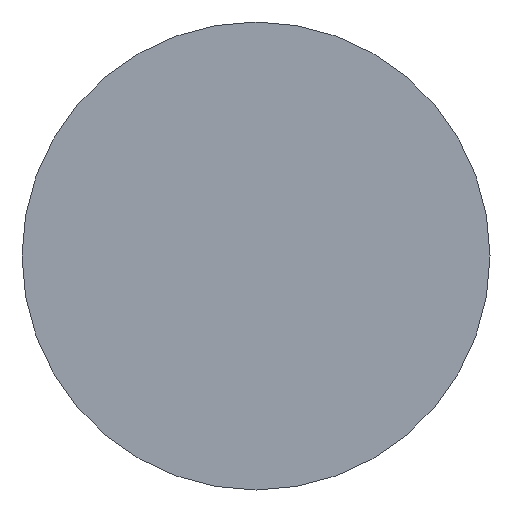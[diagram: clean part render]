
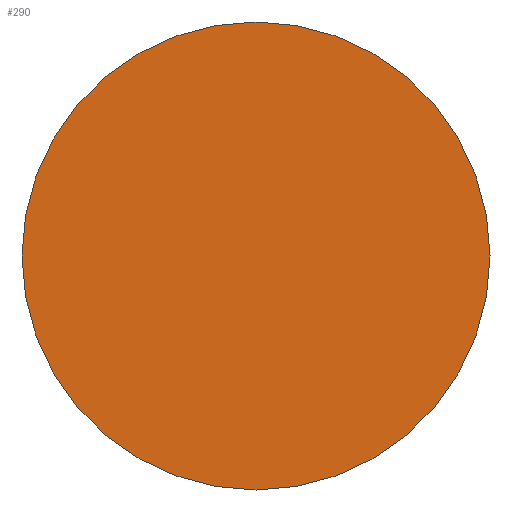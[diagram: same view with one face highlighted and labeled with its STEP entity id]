
A CAD part, front view. The second image highlights one B-rep face of the part: STEP entity #290.
In plain terms, the highlighted planar face has unit normal (0, -1, 0).
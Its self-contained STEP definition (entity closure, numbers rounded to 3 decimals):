
#12 = DIRECTION ( 'NONE',  ( 0., 1., 0. ) ) ;
#36 = FACE_OUTER_BOUND ( 'NONE', #81, .T. ) ;
#40 = AXIS2_PLACEMENT_3D ( 'NONE', #267, #12, #401 ) ;
#59 = ORIENTED_EDGE ( 'NONE', *, *, #377, .F. ) ;
#72 = DIRECTION ( 'NONE',  ( 0., 1., 0. ) ) ;
#81 = EDGE_LOOP ( 'NONE', ( #59, #253 ) ) ;
#106 = AXIS2_PLACEMENT_3D ( 'NONE', #170, #72, #328 ) ;
#110 = EDGE_CURVE ( 'NONE', #287, #144, #180, .T. ) ;
#135 = CARTESIAN_POINT ( 'NONE',  ( 0., 0., -22.9 ) ) ;
#144 = VERTEX_POINT ( 'NONE', #351 ) ;
#167 = PLANE ( 'NONE',  #304 ) ;
#170 = CARTESIAN_POINT ( 'NONE',  ( 0., 0., 0. ) ) ;
#180 = CIRCLE ( 'NONE', #106, 22.9 ) ;
#182 = DIRECTION ( 'NONE',  ( 0., 0., -1. ) ) ;
#253 = ORIENTED_EDGE ( 'NONE', *, *, #110, .F. ) ;
#267 = CARTESIAN_POINT ( 'NONE',  ( 0., 0., 0. ) ) ;
#287 = VERTEX_POINT ( 'NONE', #135 ) ;
#290 = ADVANCED_FACE ( 'NONE', ( #36 ), #167, .T. ) ;
#294 = CARTESIAN_POINT ( 'NONE',  ( -22.9, 0., 0. ) ) ;
#304 = AXIS2_PLACEMENT_3D ( 'NONE', #294, #356, #182 ) ;
#328 = DIRECTION ( 'NONE',  ( 0., 0., 1. ) ) ;
#351 = CARTESIAN_POINT ( 'NONE',  ( 0., 0., 22.9 ) ) ;
#356 = DIRECTION ( 'NONE',  ( 0., -1., 0. ) ) ;
#377 = EDGE_CURVE ( 'NONE', #144, #287, #404, .T. ) ;
#401 = DIRECTION ( 'NONE',  ( 0., 0., 1. ) ) ;
#404 = CIRCLE ( 'NONE', #40, 22.9 ) ;
